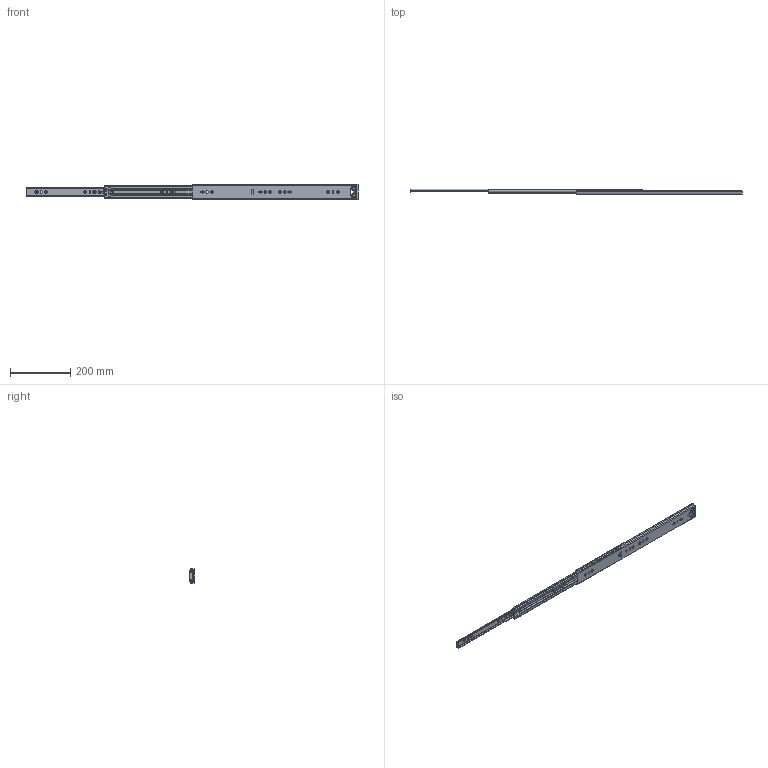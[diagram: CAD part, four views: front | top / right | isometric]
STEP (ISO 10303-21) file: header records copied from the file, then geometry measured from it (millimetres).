
FILE_DESCRIPTION((''),'2;1');
FILE_NAME('1053-02-22_ASM','2022-08-15T',('jishu015'),(''),'PRO/ENGINEER BY PARAMETRIC TECHNOLOGY CORPORATION, 2010280','PRO/ENGINEER BY PARAMETRIC TECHNOLOGY CORPORATION, 2010280','');
FILE_SCHEMA(('CONFIG_CONTROL_DESIGN'));
Length unit declared in the file: millimetre
Products named in the file (16): 1053-02-22WAIKE; 1053WEIJIAO_____________; 53-WAIKEJIAO-22; 1053-02-22WAIKE_ASM; 1053ZHUTIAO-175_____________; 53-5-6GANZHU_____________; 1053ZHUTIAO-175MM______________ASM; 1053-02-18ZHONGGUI_____________; 53ZHIDIJIAO_____________; 1053-02-18ZHONGGUI______________ASM; 1053XIAOZHUJIA-14GE_; 1053XIAOZHUJIA-12GE_ASM; 1053-02-18NEIGUI_____________; 53BACHA____________; 1053-02-18NEIGUI______________ASM; 1053-02-22_ASM
Assembly tree (63 placements, depth 3):
  1053-02-22_ASM
    1053-02-22WAIKE_ASM
      1053-02-22WAIKE
      1053WEIJIAO_____________
      53-WAIKEJIAO-22
    1053ZHUTIAO-175MM______________ASM  x2
      1053ZHUTIAO-175_____________
      53-5-6GANZHU_____________
    1053-02-18ZHONGGUI______________ASM
      1053-02-18ZHONGGUI_____________
      53ZHIDIJIAO_____________
    1053XIAOZHUJIA-12GE_ASM
      1053XIAOZHUJIA-14GE_
      53-5-6GANZHU_____________  x40
    1053-02-18NEIGUI______________ASM
      1053-02-18NEIGUI_____________
      53BACHA____________
Bounding box: 1100 x 18.7 x 53 mm (x, y, z)
Volume: 207903 mm3; surface area: 239184 mm2
Topology: 66 solids, 66 shells, 1830 faces, 5229 edges, 3261 vertices
Faces by surface type: cylinder 792, plane 726, sphere 130, bspline 80, cone 68, torus 34
Entity records: 59799 total; most frequent: CARTESIAN_POINT 15142, ORIENTED_EDGE 9434, DIRECTION 9273, EDGE_CURVE 4717, AXIS2_PLACEMENT_3D 3258, VERTEX_POINT 3039, VECTOR 2757, LINE 2757
